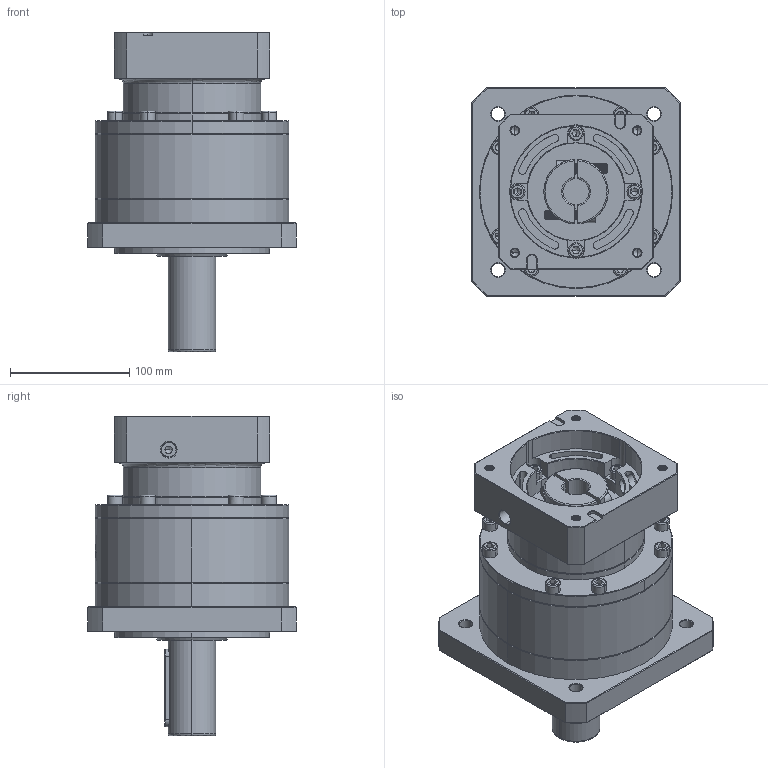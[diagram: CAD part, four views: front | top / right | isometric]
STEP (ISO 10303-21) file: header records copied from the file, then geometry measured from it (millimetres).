
FILE_DESCRIPTION (( 'STEP AP214' ), '1' );
FILE_NAME ('ZF160A-D40-L1-P2-22-110-145-M8.step', '2023-09-03T06:56:59', ( '' ), ( '' ), 'SwSTEP 2.0', 'SolidWorks 2016', '' );
FILE_SCHEMA (( 'AUTOMOTIVE_DESIGN' ));
Length unit declared in the file: millimetre
Products named in the file (1): ZF160A-D40-L1-P2-22-110-145-M8
Bounding box: 175 x 175 x 267.8 mm (x, y, z)
Volume: 3201722.9 mm3; surface area: 312290.3 mm2
Topology: 7 solids, 7 shells, 2480 faces, 6621 edges, 4256 vertices
Faces by surface type: plane 1147, cylinder 507, bspline 410, cone 360, torus 56
Entity records: 138102 total; most frequent: CARTESIAN_POINT 54186, ORIENTED_EDGE 13134, DIRECTION 10028, EDGE_CURVE 6567, VERTEX_POINT 4256, VECTOR 3450, LINE 3450, AXIS2_PLACEMENT_3D 3289
